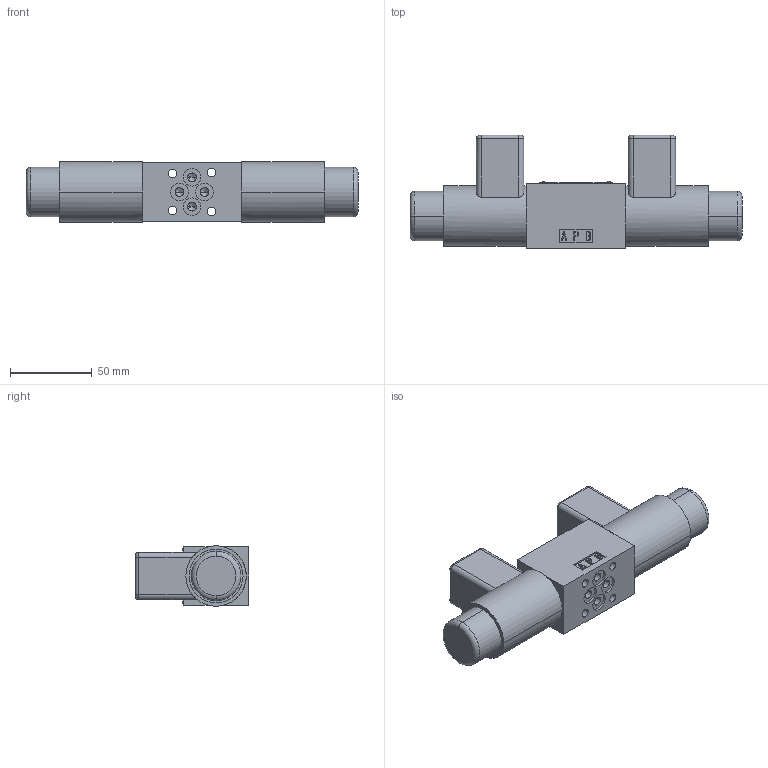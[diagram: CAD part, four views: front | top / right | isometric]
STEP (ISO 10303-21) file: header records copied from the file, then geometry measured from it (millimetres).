
FILE_DESCRIPTION((''),'2;1');
FILE_NAME('RPE3_043','2011-03-14T',('tvatras'),(''),'PRO/ENGINEER BY PARAMETRIC TECHNOLOGY CORPORATION, 2010180','PRO/ENGINEER BY PARAMETRIC TECHNOLOGY CORPORATION, 2010180','');
FILE_SCHEMA(('CONFIG_CONTROL_DESIGN'));
Length unit declared in the file: millimetre
Products named in the file (1): RPE3_043
Bounding box: 203.4 x 69.5 x 37 mm (x, y, z)
Volume: 273887.6 mm3; surface area: 39966 mm2
Topology: 1 solids, 5 shells, 261 faces, 669 edges, 430 vertices
Faces by surface type: plane 153, cylinder 80, cone 12, bspline 8, torus 4, sphere 4
Entity records: 8051 total; most frequent: CARTESIAN_POINT 1636, DIRECTION 1327, ORIENTED_EDGE 1296, EDGE_CURVE 652, AXIS2_PLACEMENT_3D 443, VECTOR 441, LINE 441, VERTEX_POINT 428
